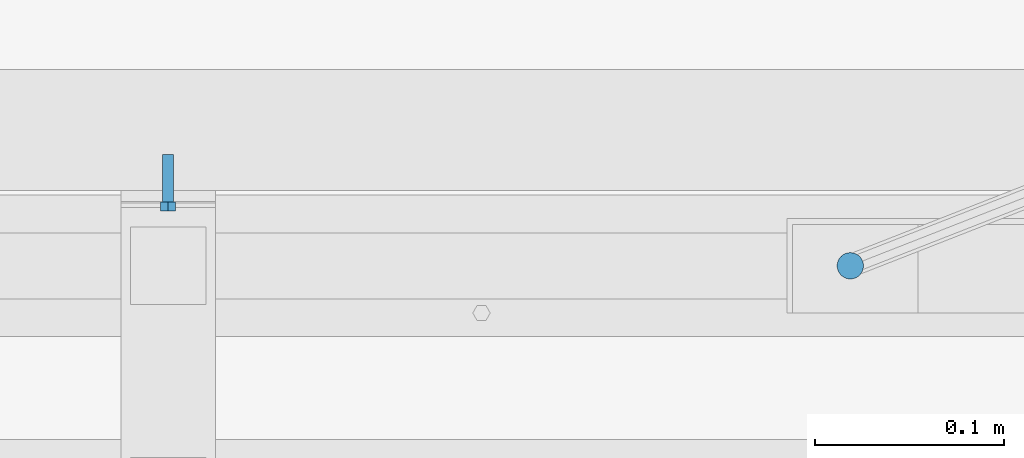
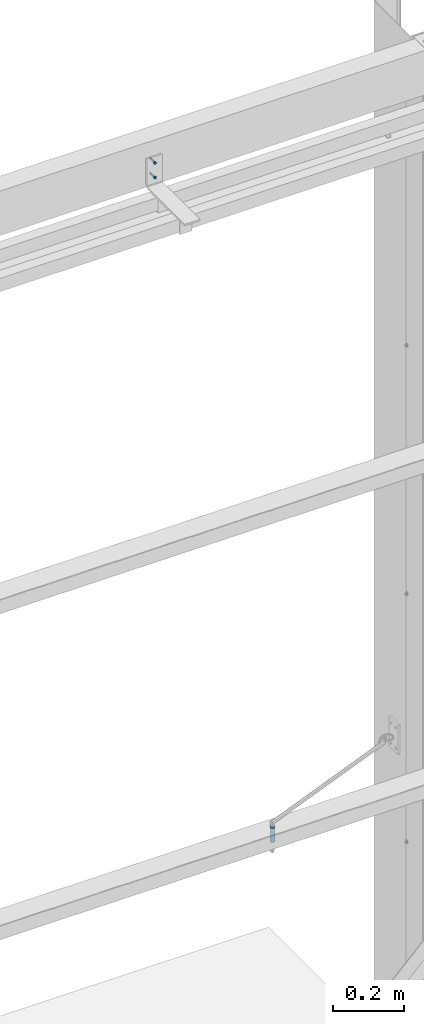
# One storey, part 66 of 91: 2 mechanical fasteners, 2 elements without a shape of their own.
"""IFC2X3 building model written with IfcOpenShell, lengths in millimetres."""

from ifc_helpers import new_model, si_unit, frame, origin_with_axes, origin_2d_with_axis, place, context, subcontext, project, spatial, polyline, circle, outline, extrude, source, transform, mapped, material, type_object, element, aggregate, save


model = new_model("IFC2X3")

# Units and contexts
model_context = context("Model", 3, precision=1e-05, world=origin_with_axes())
body_context = subcontext(model_context, "Body", "Model", "MODEL_VIEW")
ifc_project = project(units=[si_unit("LENGTHUNIT", "METRE", prefix="MILLI"), si_unit("AREAUNIT", "SQUARE_METRE"), si_unit("VOLUMEUNIT", "CUBIC_METRE"), si_unit("MASSUNIT", "GRAM", prefix="KILO"), si_unit("TIMEUNIT", "SECOND"), si_unit("PLANEANGLEUNIT", "RADIAN"), si_unit("SOLIDANGLEUNIT", "STERADIAN"), si_unit("THERMODYNAMICTEMPERATUREUNIT", "DEGREE_CELSIUS"), si_unit("LUMINOUSINTENSITYUNIT", "LUMEN")], contexts=[model_context])

# Site, building, storey
site_placement = place(None, origin_with_axes())
site = spatial("IfcSite", under=ifc_project, at=site_placement, Name="Undefined", CompositionType="ELEMENT")
building_placement = place(site_placement, origin_with_axes())
building = spatial("IfcBuilding", under=site, at=building_placement, Name="Undefined", CompositionType="ELEMENT")
storey_placement = place(building_placement, origin_with_axes())
storey = spatial("IfcBuildingStorey", under=building, at=storey_placement, Name="Undefined", CompositionType="ELEMENT", Elevation=0.0)

# Assembly, mechanical fastener
assembly_1_placement = place(storey_placement, origin_with_axes())
assembly_1 = element("IfcElementAssembly", 1, at=assembly_1_placement, inside=storey, Name="SLIDING DOOR", AssemblyPlace="NOTDEFINED", PredefinedType="RIGID_FRAME")
ifc_material_1 = material(Name="8.8S")
discrete_accessory_type = type_object("IfcDiscreteAccessoryType", Name="Bolt assembly")
shared_shape_1 = source(origin_with_axes(), body_context, "Body", "SweptSolid", [
    extrude(circle(Radius=7.0, at=origin_2d_with_axis()), frame((0.0, 0.0033333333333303, 0.0), z_axis=(0.0, 1.0, 0.0), x_axis=(1.0, 0.0, 0.0)), (0.0, 0.0, 1.0), 50.1),
])
mechanical_fastener_1_placement = place(assembly_1_placement, frame((-108233.343767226, 87712.15, 1147.34), z_axis=(1.0, 0.0, 0.0), x_axis=(0.0, -1.0, 0.0)))
mechanical_fastener_1 = element("IfcMechanicalFastener", 2, at=mechanical_fastener_1_placement, type_object=discrete_accessory_type, material=ifc_material_1, Name="Bolt assembly", NominalDiameter=12.0, NominalLength=49.9966659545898, context=body_context, shape_type="MappedRepresentation", body=[
    mapped(shared_shape_1, transform((0.0, 0.0, 0.0))),
])
aggregate(assembly_1, [mechanical_fastener_1])

assembly_2_placement = place(storey_placement, origin_with_axes())
assembly_2 = element("IfcElementAssembly", 3, at=assembly_2_placement, inside=storey, Name="DOOR BRACKET", AssemblyPlace="NOTDEFINED", PredefinedType="RIGID_FRAME")
ifc_material_2 = material(Name="TEK_11TPIM")
shared_shape_2 = source(origin_with_axes(), body_context, "Body", "SweptSolid", [
    extrude(circle(Radius=3.0, at=origin_2d_with_axis()), frame((0.0, -6.0, 0.0), z_axis=(0.0, 1.0, 0.0), x_axis=(1.0, 0.0, 0.0)), (0.0, 0.0, 1.0), 6.1),
    extrude(outline(polyline([(4.61880215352, 0.0), (2.30940107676, 4.00000000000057), (-2.30940107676, 4.00000000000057), (-4.61880215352, 0.0), (-2.30940107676, -4.00000000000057), (2.30940107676, -4.00000000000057), (4.61880215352, 0.0)])), frame((0.0, -11.1000000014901, 0.0), z_axis=(0.0, 1.0, 0.0), x_axis=(1.0, 0.0, 0.0)), (0.0, 0.0, 1.0), 5.0),
    extrude(circle(Radius=3.0, at=origin_2d_with_axis()), frame((0.0, -6.10000000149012, 0.0), z_axis=(0.0, 1.0, 0.0), x_axis=(1.0, 0.0, 0.0)), (0.0, 0.0, 1.0), 25.0),
    extrude(circle(Radius=3.0, at=origin_2d_with_axis()), frame((0.0, -6.10000000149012, 0.0), z_axis=(0.0, 1.0, 0.0), x_axis=(1.0, 0.0, 0.0)), (0.0, 0.0, 1.0), 0.1),
    extrude(circle(Radius=3.0, at=origin_2d_with_axis()), frame((0.0, 0.0, 0.0), z_axis=(0.0, 1.0, 0.0), x_axis=(1.0, 0.0, 0.0)), (0.0, 0.0, 1.0), 0.1),
    extrude(outline(polyline([(3.46410161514, 0.0), (1.73205080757, 3.00000000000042), (-1.73205080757, 3.00000000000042), (-3.46410161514, 0.0), (-1.73205080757, -3.00000000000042), (1.73205080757, -3.00000000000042), (3.46410161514, 0.0)])), frame((0.0, 0.1, 0.0), z_axis=(0.0, 1.0, 0.0), x_axis=(1.0, 0.0, 0.0)), (0.0, 0.0, 1.0), 0.1),
])
mechanical_fastener_2_placement = place(assembly_2_placement, frame((-108594.59, 87752.15, 3524.0), z_axis=(1.0, 0.0, 0.0), x_axis=(0.0, 0.0, -1.0)))
mechanical_fastener_2 = element("IfcMechanicalFastener", 4, at=mechanical_fastener_2_placement, type_object=discrete_accessory_type, material=ifc_material_2, Name="Bolt assembly", NominalDiameter=6.0, NominalLength=25.0, context=body_context, shape_type="MappedRepresentation", body=[
    mapped(shared_shape_2, transform((0.0, 0.0, 0.0))),
    mapped(shared_shape_2, transform((50.0, 0.0, 0.0))),
])
aggregate(assembly_2, [mechanical_fastener_2])

save(model, "model.ifc")
